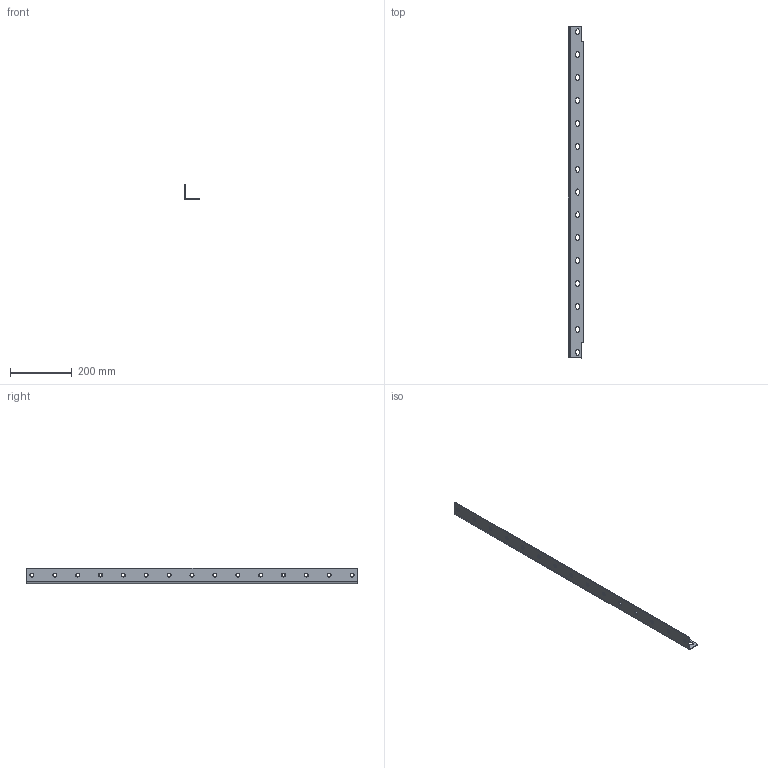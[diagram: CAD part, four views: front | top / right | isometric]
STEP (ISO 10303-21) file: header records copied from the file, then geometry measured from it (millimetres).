
FILE_DESCRIPTION (( 'STEP AP203' ), '1' );
FILE_NAME ('ORW-72.24.10.014 赶鎀鍧.STEP', '2025-10-13T13:18:08', ( '燴僽樥' ), ( '' ), 'SwSTEP 2.0', 'SolidWorks 2025', '' );
FILE_SCHEMA (( 'CONFIG_CONTROL_DESIGN' ));
Length unit declared in the file: millimetre
Products named in the file (1): ORW-72.24.10.014 Уголок
Bounding box: 50 x 1074 x 50 mm (x, y, z)
Volume: 291344.1 mm3; surface area: 204992.1 mm2
Topology: 1 solids, 1 shells, 110 faces, 316 edges, 208 vertices
Faces by surface type: cylinder 49, plane 46, cone 15
Full cylindrical faces by diameter (mm): 10.9 x15
Entity records: 3539 total; most frequent: DIRECTION 606, CARTESIAN_POINT 575, ORIENTED_EDGE 542, EDGE_CURVE 271, AXIS2_PLACEMENT_3D 224, EDGE_LOOP 200, VERTEX_POINT 193, LINE 158
